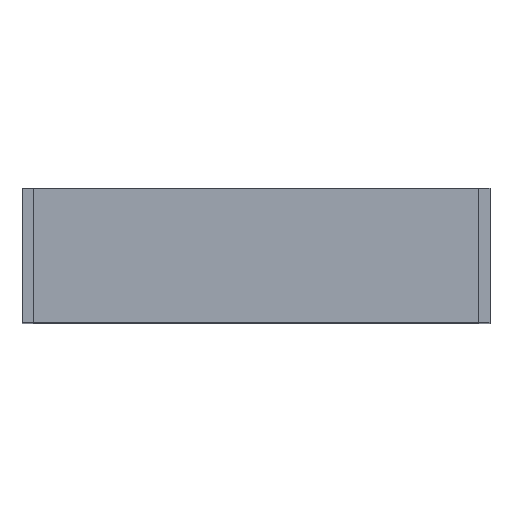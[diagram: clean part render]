
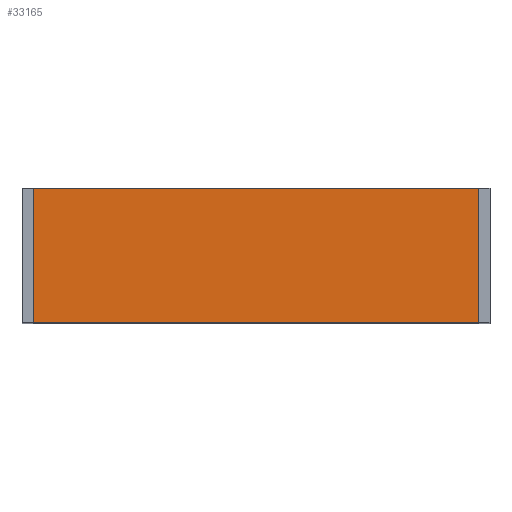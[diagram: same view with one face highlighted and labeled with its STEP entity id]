
A CAD part, top view. The second image highlights one B-rep face of the part: STEP entity #33165.
In plain terms, the highlighted planar face has unit normal (0, 0, 1).
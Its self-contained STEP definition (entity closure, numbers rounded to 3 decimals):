
#33045=CARTESIAN_POINT('',(1982.,200.,1500.));
#33046=VERTEX_POINT('',#33045);
#33053=CARTESIAN_POINT('',(1982.,-15.,1500.));
#33054=VERTEX_POINT('',#33053);
#33055=CARTESIAN_POINT('',(1982.,200.,1500.));
#33056=DIRECTION('',(-0.,-1.,-0.));
#33057=VECTOR('',#33056,215.);
#33058=LINE('',#33055,#33057);
#33059=EDGE_CURVE('',#33046,#33054,#33058,.T.);
#33083=CARTESIAN_POINT('',(1268.,200.,1500.));
#33084=VERTEX_POINT('',#33083);
#33091=CARTESIAN_POINT('',(1982.,200.,1500.));
#33092=DIRECTION('',(-1.,-0.,0.));
#33093=VECTOR('',#33092,714.);
#33094=LINE('',#33091,#33093);
#33095=EDGE_CURVE('',#33046,#33084,#33094,.T.);
#33114=CARTESIAN_POINT('',(1268.,-15.,1500.));
#33115=VERTEX_POINT('',#33114);
#33122=CARTESIAN_POINT('',(1268.,200.,1500.));
#33123=DIRECTION('',(-0.,-1.,-0.));
#33124=VECTOR('',#33123,215.);
#33125=LINE('',#33122,#33124);
#33126=EDGE_CURVE('',#33084,#33115,#33125,.T.);
#33144=CARTESIAN_POINT('',(1268.,-15.,1500.));
#33145=DIRECTION('',(1.,0.,-0.));
#33146=VECTOR('',#33145,714.);
#33147=LINE('',#33144,#33146);
#33148=EDGE_CURVE('',#33115,#33054,#33147,.T.);
#33154=CARTESIAN_POINT('',(0.,0.,1500.));
#33155=DIRECTION('',(0.,0.,1.));
#33156=DIRECTION('',(1.,0.,0.));
#33157=AXIS2_PLACEMENT_3D('',#33154,#33155,#33156);
#33158=PLANE('',#33157);
#33159=ORIENTED_EDGE('',*,*,#33059,.F.);
#33160=ORIENTED_EDGE('',*,*,#33095,.T.);
#33161=ORIENTED_EDGE('',*,*,#33126,.T.);
#33162=ORIENTED_EDGE('',*,*,#33148,.T.);
#33163=EDGE_LOOP('',(#33159,#33160,#33161,#33162));
#33164=FACE_BOUND('',#33163,.T.);
#33165=ADVANCED_FACE('',(#33164),#33158,.T.);
